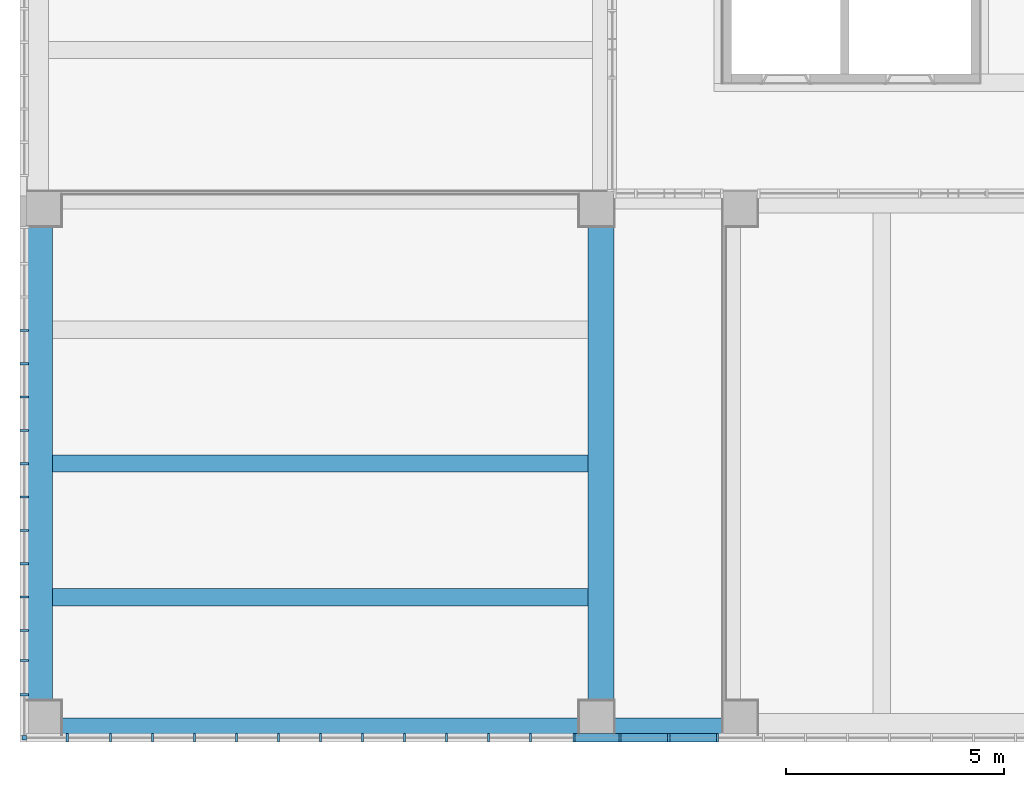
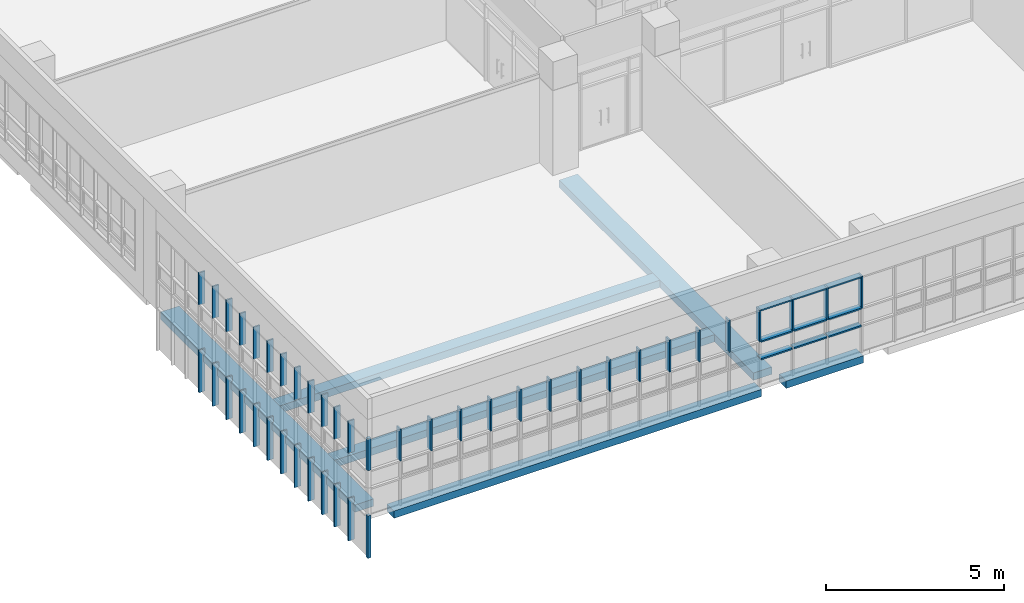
# One storey, part 2 of 81: 51 members, 6 beams, 2 elements without a shape of their own.
"""IFC2X3 building model written with IfcOpenShell, lengths in millimetres."""

import ifcopenshell
import ifcopenshell.guid

model = None  # the IFC model being written
_history = None  # IfcOwnerHistory: only IFC2X3 demands one
_inside = {}  # id of a spatial element -> (the spatial element, [elements in it])
_under = {}  # id of a project, library or spatial element -> (it, [spatial elements below it])
_declared = {}  # id of a project -> (the project, [libraries it declares])
_typed = {}  # id of a type object -> (the type object, [elements of that type])
_made_of = {}  # id of a material, layer set ... -> (it, [elements and type objects made of it])


def new_model(schema):
    """Start an empty IFC model of exactly this schema.

    Asked for "IFC4X3", IfcOpenShell would pick the latest addendum, in which some entities
    have other attributes; the version numbers below select the first issue.
    IFC2X3 requires an IfcOwnerHistory on every rooted entity: one is made here for all.
    """
    global model, _history
    if schema == "IFC4X3":
        model = ifcopenshell.file(schema_version=(4, 3, 0, 0))
    else:
        model = ifcopenshell.file(schema=schema)
    _inside.clear()
    _under.clear()
    _declared.clear()
    _typed.clear()
    _made_of.clear()
    _history = None
    if model.schema == "IFC2X3":
        org = make("IfcOrganization", Name="unknown")
        user = make(
            "IfcPersonAndOrganization",
            ThePerson=make("IfcPerson", FamilyName="unknown"),
            TheOrganization=org,
        )
        app = make(
            "IfcApplication",
            ApplicationDeveloper=org,
            Version="unknown",
            ApplicationFullName="unknown",
            ApplicationIdentifier="unknown",
        )
        _history = make(
            "IfcOwnerHistory",
            OwningUser=user,
            OwningApplication=app,
            ChangeAction="ADDED",
            CreationDate=0,
        )
    return model


def make(cls, **values):
    """One entity of the class cls with the attributes given. An attribute that is None is left unset."""
    return model.create_entity(
        cls, **{name: value for name, value in values.items() if value is not None}
    )


def entity(cls, *values):
    """Any entity or typed value of the class cls, its attributes in the order of the schema. None: left unset."""
    e = model.create_entity(cls)
    for i, value in enumerate(values):
        if value is not None:
            e[i] = value
    return e


def rooted(cls, **values):
    """An entity with a GlobalId (a new one), such as an element, a storey or a relation."""
    return make(cls, GlobalId=ifcopenshell.guid.new(), OwnerHistory=_history, **values)


def si_unit(unit_type, name, prefix=None):
    """IfcSIUnit, for example si_unit("LENGTHUNIT", "METRE", prefix="MILLI")."""
    return make("IfcSIUnit", UnitType=unit_type, Prefix=prefix, Name=name)


def converted_unit(unit_type, name, factor, base, dimensions=None, offset=None):
    """IfcConversionBasedUnit, such as the inch: factor (a typed value) times the base unit."""
    return make(
        "IfcConversionBasedUnit"
        if offset is None
        else "IfcConversionBasedUnitWithOffset",
        ConversionOffset=offset,
        Dimensions=None
        if dimensions is None
        else entity("IfcDimensionalExponents", *dimensions),
        UnitType=unit_type,
        Name=name,
        ConversionFactor=make(
            "IfcMeasureWithUnit", ValueComponent=factor, UnitComponent=base
        ),
    )


def derived_unit(unit_type, elements):
    """IfcDerivedUnit: a product of units, each with its exponent."""
    return make(
        "IfcDerivedUnit",
        Elements=[
            make("IfcDerivedUnitElement", Unit=unit, Exponent=power)
            for unit, power in elements
        ],
        UnitType=unit_type,
    )


def assignment(units):
    """IfcUnitAssignment: the units of a project."""
    return None if units is None else make("IfcUnitAssignment", Units=units)


def point(xyz):
    """IfcCartesianPoint."""
    return None if xyz is None else make("IfcCartesianPoint", Coordinates=xyz)


def direction(xyz):
    """IfcDirection."""
    return None if xyz is None else make("IfcDirection", DirectionRatios=xyz)


def frame(location, z_axis=None, x_axis=None):
    """IfcAxis2Placement3D, a coordinate frame: its origin and axes. An axis left out is left unset."""
    return make(
        "IfcAxis2Placement3D",
        Location=point(location),
        Axis=direction(z_axis),
        RefDirection=direction(x_axis),
    )


def frame_2d(location, x_axis=None):
    """IfcAxis2Placement2D, a coordinate frame in the plane: its origin and x axis."""
    return make(
        "IfcAxis2Placement2D", Location=point(location), RefDirection=direction(x_axis)
    )


def origin():
    """The frame at (0, 0, 0) with its axes left unset."""
    return frame((0.0, 0.0, 0.0))


def origin_2d_with_axis():
    """The frame at (0, 0) in the plane with the x axis (1, 0) written out."""
    return frame_2d((0.0, 0.0), x_axis=(1.0, 0.0))


def place(relative_to, where):
    """IfcLocalPlacement: puts the frame where relative to a parent placement (None: the world)."""
    return make(
        "IfcLocalPlacement", PlacementRelTo=relative_to, RelativePlacement=where
    )


def context(
    kind, dimensions, precision=None, world=None, true_north=None, identifier=None
):
    """IfcGeometricRepresentationContext, for example the 3D "Model" context."""
    return make(
        "IfcGeometricRepresentationContext",
        ContextIdentifier=identifier,
        ContextType=kind,
        CoordinateSpaceDimension=dimensions,
        Precision=precision,
        WorldCoordinateSystem=world,
        TrueNorth=true_north,
    )


def subcontext(parent, identifier, kind, view, scale=None):
    """IfcGeometricRepresentationSubContext, for example "Body" below "Model"."""
    return make(
        "IfcGeometricRepresentationSubContext",
        ContextIdentifier=identifier,
        ContextType=kind,
        ParentContext=parent,
        TargetScale=scale,
        TargetView=view,
    )


def project(units=None, contexts=None):
    """IfcProject with its units and contexts."""
    return rooted(
        "IfcProject",
        Name="project",
        RepresentationContexts=contexts,
        UnitsInContext=assignment(units),
    )


def spatial(cls, under=None, at=None, **own):
    """A site, building, storey or space (cls), placed at a placement, below another one or the project."""
    s = rooted(cls, ObjectPlacement=at, **own)
    if under is not None:
        _under.setdefault(under.id(), (under, []))[1].append(s)
    return s


def profile(cls, at=None, kind="AREA", **sizes):
    """A parametric profile (cls). Its sizes go by their IFC names, for example OverallWidth=200.0."""
    return make(cls, ProfileType=kind, Position=at, **sizes)


def rectangle(**sizes):
    """IfcRectangleProfileDef."""
    return profile("IfcRectangleProfileDef", **sizes)


def extrude(swept, where, along, depth):
    """IfcExtrudedAreaSolid: the profile swept, set in the frame where, extruded along a direction by depth."""
    return make(
        "IfcExtrudedAreaSolid",
        SweptArea=swept,
        Position=where,
        ExtrudedDirection=direction(along),
        Depth=depth,
    )


def shape(context_of_items, identifier, shape_type, items):
    """IfcShapeRepresentation: the items that make up one representation, for example the "Body"."""
    return make(
        "IfcShapeRepresentation",
        ContextOfItems=context_of_items,
        RepresentationIdentifier=identifier,
        RepresentationType=shape_type,
        Items=items,
    )


def source(mapping_origin, context_of_items, identifier, shape_type, items):
    """IfcRepresentationMap: a shape defined once, which mapped items show again and again."""
    return make(
        "IfcRepresentationMap",
        MappingOrigin=mapping_origin,
        MappedRepresentation=shape(context_of_items, identifier, shape_type, items),
    )


def transform(
    local_origin,
    x_axis=None,
    y_axis=None,
    z_axis=None,
    scale=None,
    scale2=None,
    scale3=None,
    uniform=True,
):
    """IfcCartesianTransformationOperator3D, or its non-uniform kind. x_axis, y_axis, z_axis: its Axis1, 2, 3."""
    if uniform:
        return make(
            "IfcCartesianTransformationOperator3D",
            Axis1=direction(x_axis),
            Axis2=direction(y_axis),
            LocalOrigin=point(local_origin),
            Scale=scale,
            Axis3=direction(z_axis),
        )
    return make(
        "IfcCartesianTransformationOperator3DnonUniform",
        Axis1=direction(x_axis),
        Axis2=direction(y_axis),
        LocalOrigin=point(local_origin),
        Scale=scale,
        Axis3=direction(z_axis),
        Scale2=scale2,
        Scale3=scale3,
    )


def mapped(mapping_source, mapping_target):
    """IfcMappedItem: shows the shape of a source again, moved by a transform."""
    return make(
        "IfcMappedItem", MappingSource=mapping_source, MappingTarget=mapping_target
    )


def material(Name=None, Category=None):
    """IfcMaterial."""
    return make("IfcMaterial", Name=Name, Category=Category)


def made_of(thing, what):
    """Note that an element or type object is made of a material, layer set ...; save() writes the relation."""
    if what is not None:
        _made_of.setdefault(what.id(), (what, []))[1].append(thing)
    return thing


def type_object(cls, material=None, **own):
    """A type object (cls), such as IfcWallType, which elements share."""
    return made_of(rooted(cls, **own), material)


def type_shapes(of_type, sources):
    """Give a type object the sources (RepresentationMaps) that its elements show as mapped items."""
    of_type.RepresentationMaps = sources


def element(
    cls,
    number,
    at=None,
    inside=None,
    cuts=None,
    type_object=None,
    material=None,
    context=None,
    identifier="Body",
    shape_type=None,
    held_by="IfcProductDefinitionShape",
    body=None,
    shapes=None,
    **own,
):
    """One element of the class cls, such as IfcWall. Its Tag is "e" and its number.

    at: its placement. inside: the storey or other place that contains it. cuts: it is an
    opening in that element (IfcRelVoidsElement). A single representation is given by context,
    identifier, shape_type and body (its items); several are given by shapes. held_by: the class
    of the entity that holds the representations. save() writes the other relations.
    """
    e = rooted(cls, Tag="e%d" % number, ObjectPlacement=at, **own)
    if body is not None:
        shapes = [shape(context, identifier, shape_type, body)]
    if shapes is not None:
        e.Representation = make(held_by, Representations=shapes)
    if inside is not None:
        _inside.setdefault(inside.id(), (inside, []))[1].append(e)
    if cuts is not None:
        rooted(
            "IfcRelVoidsElement", RelatingBuildingElement=cuts, RelatedOpeningElement=e
        )
    if type_object is not None:
        _typed.setdefault(type_object.id(), (type_object, []))[1].append(e)
    return made_of(e, material)


def aggregate(whole, parts):
    """IfcRelAggregates: a whole, such as a stair, and the parts it consists of."""
    return rooted("IfcRelAggregates", RelatingObject=whole, RelatedObjects=parts)


def save(model, path):
    """Write the relations noted so far, then the file.

    IfcRelAggregates (storeys below a building ...), IfcRelContainedInSpatialStructure (elements
    in a storey), IfcRelDefinesByType, IfcRelAssociatesMaterial and IfcRelDeclares: one each for
    every whole, place, type object, material and project.
    """
    for whole, parts in _under.values():
        aggregate(whole, parts)
    for where, things in _inside.values():
        rooted(
            "IfcRelContainedInSpatialStructure",
            RelatedElements=things,
            RelatingStructure=where,
        )
    for kind, things in _typed.values():
        rooted("IfcRelDefinesByType", RelatedObjects=things, RelatingType=kind)
    for what, things in _made_of.values():
        rooted("IfcRelAssociatesMaterial", RelatedObjects=things, RelatingMaterial=what)
    for by, libraries in _declared.values():
        rooted("IfcRelDeclares", RelatingContext=by, RelatedDefinitions=libraries)
    model.write(path)


model = new_model("IFC2X3")

# Units and contexts
model_context = context("Model", 3, precision=0.01, world=origin(), true_north=direction((6.123031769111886e-17, 1.0)))
body_context = subcontext(model_context, "Body", "Model", "MODEL_VIEW")
ifc_project = project(units=[si_unit("LENGTHUNIT", "METRE", prefix="MILLI"), si_unit("AREAUNIT", "SQUARE_METRE"), si_unit("VOLUMEUNIT", "CUBIC_METRE"), converted_unit("PLANEANGLEUNIT", "DEGREE", entity("IfcRatioMeasure", 0.017453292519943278), si_unit("PLANEANGLEUNIT", "RADIAN"), dimensions=[0, 0, 0, 0, 0, 0, 0]), si_unit("MASSUNIT", "GRAM", prefix="KILO"), derived_unit("MASSDENSITYUNIT", [(si_unit("MASSUNIT", "GRAM", prefix="KILO"), 1), (si_unit("LENGTHUNIT", "METRE"), -3)]), derived_unit("MOMENTOFINERTIAUNIT", [(si_unit("LENGTHUNIT", "METRE"), 4)]), si_unit("TIMEUNIT", "SECOND"), si_unit("FREQUENCYUNIT", "HERTZ"), si_unit("THERMODYNAMICTEMPERATUREUNIT", "DEGREE_CELSIUS"), derived_unit("THERMALTRANSMITTANCEUNIT", [(si_unit("MASSUNIT", "GRAM", prefix="KILO"), 1), (si_unit("THERMODYNAMICTEMPERATUREUNIT", "KELVIN"), -1), (si_unit("TIMEUNIT", "SECOND"), -3)]), derived_unit("VOLUMETRICFLOWRATEUNIT", [(si_unit("LENGTHUNIT", "METRE"), 3), (si_unit("TIMEUNIT", "SECOND"), -1)]), derived_unit("MASSFLOWRATEUNIT", [(si_unit("MASSUNIT", "GRAM", prefix="KILO"), 1), (si_unit("TIMEUNIT", "SECOND"), -1)]), derived_unit("ROTATIONALFREQUENCYUNIT", [(si_unit("TIMEUNIT", "SECOND"), -1)]), si_unit("ELECTRICCURRENTUNIT", "AMPERE"), si_unit("ELECTRICVOLTAGEUNIT", "VOLT"), si_unit("POWERUNIT", "WATT"), si_unit("FORCEUNIT", "NEWTON", prefix="KILO"), si_unit("ILLUMINANCEUNIT", "LUX"), si_unit("LUMINOUSFLUXUNIT", "LUMEN"), si_unit("LUMINOUSINTENSITYUNIT", "CANDELA"), derived_unit("USERDEFINED", [(si_unit("MASSUNIT", "GRAM", prefix="KILO"), -1), (si_unit("LENGTHUNIT", "METRE"), -2), (si_unit("TIMEUNIT", "SECOND"), 3), (si_unit("LUMINOUSFLUXUNIT", "LUMEN"), 1)]), derived_unit("SOUNDPOWERUNIT", [(si_unit("MASSUNIT", "GRAM", prefix="KILO"), 1), (si_unit("LENGTHUNIT", "METRE"), 2), (si_unit("TIMEUNIT", "SECOND"), -3)]), derived_unit("SOUNDPRESSUREUNIT", [(si_unit("MASSUNIT", "GRAM", prefix="KILO"), 1), (si_unit("LENGTHUNIT", "METRE"), -1), (si_unit("TIMEUNIT", "SECOND"), -2)]), derived_unit("LINEARVELOCITYUNIT", [(si_unit("LENGTHUNIT", "METRE"), 1), (si_unit("TIMEUNIT", "SECOND"), -1)]), si_unit("PRESSUREUNIT", "PASCAL"), derived_unit("USERDEFINED", [(si_unit("LENGTHUNIT", "METRE"), -2), (si_unit("MASSUNIT", "GRAM", prefix="KILO"), 1), (si_unit("TIMEUNIT", "SECOND"), -2)]), derived_unit("LINEARFORCEUNIT", [(si_unit("MASSUNIT", "GRAM", prefix="KILO"), 1), (si_unit("LENGTHUNIT", "METRE"), 1), (si_unit("TIMEUNIT", "SECOND"), -2), (si_unit("LENGTHUNIT", "METRE"), -1)]), derived_unit("PLANARFORCEUNIT", [(si_unit("MASSUNIT", "GRAM", prefix="KILO"), 1), (si_unit("LENGTHUNIT", "METRE"), 1), (si_unit("TIMEUNIT", "SECOND"), -2), (si_unit("LENGTHUNIT", "METRE"), -2)])], contexts=[model_context])

# Site, building, storey
site_placement = place(None, frame((-14167.972527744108, -657.2125860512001, 0.0)))
site = spatial("IfcSite", under=ifc_project, at=site_placement, Name="Default", CompositionType="ELEMENT")
building_placement = place(site_placement, origin())
building = spatial("IfcBuilding", under=site, at=building_placement, Name="Sample Building", CompositionType="ELEMENT")
storey_placement = place(building_placement, frame((0.0, 0.0, 13400.0)))
storey = spatial("IfcBuildingStorey", under=building, at=storey_placement, Name="지상 4층", CompositionType="ELEMENT", Elevation=13400.00000000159)

# Curtain wall, members
curtain_wall_type = type_object("IfcCurtainWallType", Name="커튼월:CW112-스테인리스 스틸 커튼월", PredefinedType="NOTDEFINED")
curtain_wall_1_placement = place(storey_placement, frame((0.0, 0.0, -13400.0)))
curtain_wall_1 = element("IfcCurtainWall", 1, at=curtain_wall_1_placement, inside=storey, type_object=curtain_wall_type, Name="커튼월:CW112-스테인리스 스틸 커튼월", ObjectType="커튼월:CW112-스테인리스 스틸 커튼월")
ifc_material_1 = material(Name="<Unnamed>")
member_type_1 = type_object("IfcMemberType", Name="직사각형 멀리언:CW200-직사각형 멀리언 100 x 100mm", PredefinedType="MULLION", material=ifc_material_1)
shared_shape_1 = source(origin(), body_context, "Body", "SweptSolid", [
    extrude(rectangle(XDim=100.00000000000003, YDim=100.0, at=origin_2d_with_axis()), frame((-50.0, 0.0, -1450.0), z_axis=(0.0, 0.0, 1.0), x_axis=(0.0, -1.0, 0.0)), (0.0, 0.0, 1.0), 1449.9999999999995),
])
type_shapes(member_type_1, [shared_shape_1])
member_1_placement = place(curtain_wall_1_placement, frame((14017.955105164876, 457.4731922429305, 12000.0), z_axis=(0.0, 0.0, -1.0), x_axis=(0.0, -1.0, 0.0)))
member_1 = element("IfcMember", 2, at=member_1_placement, type_object=member_type_1, material=ifc_material_1, Name="직사각형 멀리언:CW200-직사각형 멀리언 100 x 100mm", ObjectType="직사각형 멀리언:CW200-직사각형 멀리언 100 x 100mm", context=body_context, shape_type="MappedRepresentation", body=[
    mapped(shared_shape_1, transform((0.0, 0.0, 0.0), scale=1.0)),
])
member_type_2 = type_object("IfcMemberType", Name="직사각형 멀리언:CW200-직사각형 멀리언 100 x 100mm", PredefinedType="MULLION", material=ifc_material_1)
shared_shape_2 = source(origin(), body_context, "Body", "SweptSolid", [
    extrude(rectangle(XDim=99.99999999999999, YDim=100.0, at=origin_2d_with_axis()), frame((-50.0, 0.0, -1100.0), z_axis=(0.0, 0.0, 1.0), x_axis=(0.0, -1.0, 0.0)), (0.0, 0.0, 1.0), 1099.9999999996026),
])
type_shapes(member_type_2, [shared_shape_2])
member_2_placement = place(curtain_wall_1_placement, frame((14017.955105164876, 457.47319224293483, 15000.0), z_axis=(0.0, 0.0, -1.0), x_axis=(0.0, -1.0, 0.0)))
member_2 = element("IfcMember", 3, at=member_2_placement, type_object=member_type_2, material=ifc_material_1, Name="직사각형 멀리언:CW200-직사각형 멀리언 100 x 100mm", ObjectType="직사각형 멀리언:CW200-직사각형 멀리언 100 x 100mm", context=body_context, shape_type="MappedRepresentation", body=[
    mapped(shared_shape_2, transform((0.0, 0.0, 0.0), scale=1.0)),
])
member_type_3 = type_object("IfcMemberType", Name="직사각형 멀리언:CW200-직사각형 멀리언 50x200mm", PredefinedType="MULLION", material=ifc_material_1)
shared_shape_3 = source(origin(), body_context, "Body", "SweptSolid", [
    extrude(rectangle(XDim=200.0, YDim=50.0, at=origin_2d_with_axis()), frame((0.0, 0.0, -1450.0), z_axis=(0.0, 0.0, 1.0), x_axis=(0.0, -1.0, 0.0)), (0.0, 0.0, 1.0), 1449.9999999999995),
])
type_shapes(member_type_3, [shared_shape_3])
member_3_placement = place(curtain_wall_1_placement, frame((14017.955105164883, 3735.8177070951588, 12000.0), z_axis=(0.0, 0.0, -1.0), x_axis=(0.0, -1.0, 0.0)))
member_3 = element("IfcMember", 4, at=member_3_placement, type_object=member_type_3, material=ifc_material_1, Name="직사각형 멀리언:CW200-직사각형 멀리언 50x200mm", ObjectType="직사각형 멀리언:CW200-직사각형 멀리언 50x200mm", context=body_context, shape_type="MappedRepresentation", body=[
    mapped(shared_shape_3, transform((0.0, 0.0, 0.0), scale=1.0)),
])
member_4_placement = place(curtain_wall_1_placement, frame((14017.955105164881, 2969.8177070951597, 12000.0), z_axis=(0.0, 0.0, -1.0), x_axis=(0.0, -1.0, 0.0)))
member_4 = element("IfcMember", 5, at=member_4_placement, type_object=member_type_3, material=ifc_material_1, Name="직사각형 멀리언:CW200-직사각형 멀리언 50x200mm", ObjectType="직사각형 멀리언:CW200-직사각형 멀리언 50x200mm", context=body_context, shape_type="MappedRepresentation", body=[
    mapped(shared_shape_3, transform((0.0, 0.0, 0.0), scale=1.0)),
])
member_5_placement = place(curtain_wall_1_placement, frame((14017.955105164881, 2277.817707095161, 12000.0), z_axis=(0.0, 0.0, -1.0), x_axis=(0.0, -1.0, 0.0)))
member_5 = element("IfcMember", 6, at=member_5_placement, type_object=member_type_3, material=ifc_material_1, Name="직사각형 멀리언:CW200-직사각형 멀리언 50x200mm", ObjectType="직사각형 멀리언:CW200-직사각형 멀리언 50x200mm", context=body_context, shape_type="MappedRepresentation", body=[
    mapped(shared_shape_3, transform((0.0, 0.0, 0.0), scale=1.0)),
])
member_6_placement = place(curtain_wall_1_placement, frame((14017.955105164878, 1494.8177070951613, 12000.0), z_axis=(0.0, 0.0, -1.0), x_axis=(0.0, -1.0, 0.0)))
member_6 = element("IfcMember", 7, at=member_6_placement, type_object=member_type_3, material=ifc_material_1, Name="직사각형 멀리언:CW200-직사각형 멀리언 50x200mm", ObjectType="직사각형 멀리언:CW200-직사각형 멀리언 50x200mm", context=body_context, shape_type="MappedRepresentation", body=[
    mapped(shared_shape_3, transform((0.0, 0.0, 0.0), scale=1.0)),
])
member_7_placement = place(curtain_wall_1_placement, frame((14017.955105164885, 4501.817707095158, 12000.0), z_axis=(0.0, 0.0, -1.0), x_axis=(0.0, -1.0, 0.0)))
member_7 = element("IfcMember", 8, at=member_7_placement, type_object=member_type_3, material=ifc_material_1, Name="직사각형 멀리언:CW200-직사각형 멀리언 50x200mm", ObjectType="직사각형 멀리언:CW200-직사각형 멀리언 50x200mm", context=body_context, shape_type="MappedRepresentation", body=[
    mapped(shared_shape_3, transform((0.0, 0.0, 0.0), scale=1.0)),
])
member_8_placement = place(curtain_wall_1_placement, frame((14017.955105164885, 5267.817707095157, 12000.0), z_axis=(0.0, 0.0, -1.0), x_axis=(0.0, -1.0, 0.0)))
member_8 = element("IfcMember", 9, at=member_8_placement, type_object=member_type_3, material=ifc_material_1, Name="직사각형 멀리언:CW200-직사각형 멀리언 50x200mm", ObjectType="직사각형 멀리언:CW200-직사각형 멀리언 50x200mm", context=body_context, shape_type="MappedRepresentation", body=[
    mapped(shared_shape_3, transform((0.0, 0.0, 0.0), scale=1.0)),
])
member_9_placement = place(curtain_wall_1_placement, frame((14017.955105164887, 6033.817707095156, 12000.0), z_axis=(0.0, 0.0, -1.0), x_axis=(0.0, -1.0, 0.0)))
member_9 = element("IfcMember", 10, at=member_9_placement, type_object=member_type_3, material=ifc_material_1, Name="직사각형 멀리언:CW200-직사각형 멀리언 50x200mm", ObjectType="직사각형 멀리언:CW200-직사각형 멀리언 50x200mm", context=body_context, shape_type="MappedRepresentation", body=[
    mapped(shared_shape_3, transform((0.0, 0.0, 0.0), scale=1.0)),
])
member_10_placement = place(curtain_wall_1_placement, frame((14017.955105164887, 6799.817707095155, 12000.0), z_axis=(0.0, 0.0, -1.0), x_axis=(0.0, -1.0, 0.0)))
member_10 = element("IfcMember", 11, at=member_10_placement, type_object=member_type_3, material=ifc_material_1, Name="직사각형 멀리언:CW200-직사각형 멀리언 50x200mm", ObjectType="직사각형 멀리언:CW200-직사각형 멀리언 50x200mm", context=body_context, shape_type="MappedRepresentation", body=[
    mapped(shared_shape_3, transform((0.0, 0.0, 0.0), scale=1.0)),
])
member_11_placement = place(curtain_wall_1_placement, frame((14017.955105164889, 7565.817707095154, 12000.0), z_axis=(0.0, 0.0, -1.0), x_axis=(0.0, -1.0, 0.0)))
member_11 = element("IfcMember", 12, at=member_11_placement, type_object=member_type_3, material=ifc_material_1, Name="직사각형 멀리언:CW200-직사각형 멀리언 50x200mm", ObjectType="직사각형 멀리언:CW200-직사각형 멀리언 50x200mm", context=body_context, shape_type="MappedRepresentation", body=[
    mapped(shared_shape_3, transform((0.0, 0.0, 0.0), scale=1.0)),
])
member_12_placement = place(curtain_wall_1_placement, frame((14017.955105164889, 8331.817707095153, 12000.0), z_axis=(0.0, 0.0, -1.0), x_axis=(0.0, -1.0, 0.0)))
member_12 = element("IfcMember", 13, at=member_12_placement, type_object=member_type_3, material=ifc_material_1, Name="직사각형 멀리언:CW200-직사각형 멀리언 50x200mm", ObjectType="직사각형 멀리언:CW200-직사각형 멀리언 50x200mm", context=body_context, shape_type="MappedRepresentation", body=[
    mapped(shared_shape_3, transform((0.0, 0.0, 0.0), scale=1.0)),
])
member_13_placement = place(curtain_wall_1_placement, frame((14017.95510516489, 9097.817707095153, 12000.0), z_axis=(0.0, 0.0, -1.0), x_axis=(0.0, -1.0, 0.0)))
member_13 = element("IfcMember", 14, at=member_13_placement, type_object=member_type_3, material=ifc_material_1, Name="직사각형 멀리언:CW200-직사각형 멀리언 50x200mm", ObjectType="직사각형 멀리언:CW200-직사각형 멀리언 50x200mm", context=body_context, shape_type="MappedRepresentation", body=[
    mapped(shared_shape_3, transform((0.0, 0.0, 0.0), scale=1.0)),
])
member_14_placement = place(curtain_wall_1_placement, frame((14017.955105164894, 9863.817707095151, 12000.0), z_axis=(0.0, 0.0, -1.0), x_axis=(0.0, -1.0, 0.0)))
member_14 = element("IfcMember", 15, at=member_14_placement, type_object=member_type_3, material=ifc_material_1, Name="직사각형 멀리언:CW200-직사각형 멀리언 50x200mm", ObjectType="직사각형 멀리언:CW200-직사각형 멀리언 50x200mm", context=body_context, shape_type="MappedRepresentation", body=[
    mapped(shared_shape_3, transform((0.0, 0.0, 0.0), scale=1.0)),
])
member_type_4 = type_object("IfcMemberType", Name="직사각형 멀리언:CW200-직사각형 멀리언 50x200mm", PredefinedType="MULLION", material=ifc_material_1)
shared_shape_4 = source(origin(), body_context, "Body", "SweptSolid", [
    extrude(rectangle(XDim=200.0, YDim=50.0, at=origin_2d_with_axis()), frame((0.0, 0.0, -1100.0), z_axis=(0.0, 0.0, 1.0), x_axis=(0.0, -1.0, 0.0)), (0.0, 0.0, 1.0), 1100.0000000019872),
])
type_shapes(member_type_4, [shared_shape_4])
member_15_placement = place(curtain_wall_1_placement, frame((14017.955105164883, 3735.817707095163, 15000.0), z_axis=(0.0, 0.0, -1.0), x_axis=(0.0, -1.0, 0.0)))
member_15 = element("IfcMember", 16, at=member_15_placement, type_object=member_type_4, material=ifc_material_1, Name="직사각형 멀리언:CW200-직사각형 멀리언 50x200mm", ObjectType="직사각형 멀리언:CW200-직사각형 멀리언 50x200mm", context=body_context, shape_type="MappedRepresentation", body=[
    mapped(shared_shape_4, transform((0.0, 0.0, 0.0), scale=1.0)),
])
member_16_placement = place(curtain_wall_1_placement, frame((14017.955105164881, 2969.8177070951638, 15000.0), z_axis=(0.0, 0.0, -1.0), x_axis=(0.0, -1.0, 0.0)))
member_16 = element("IfcMember", 17, at=member_16_placement, type_object=member_type_4, material=ifc_material_1, Name="직사각형 멀리언:CW200-직사각형 멀리언 50x200mm", ObjectType="직사각형 멀리언:CW200-직사각형 멀리언 50x200mm", context=body_context, shape_type="MappedRepresentation", body=[
    mapped(shared_shape_4, transform((0.0, 0.0, 0.0), scale=1.0)),
])
member_17_placement = place(curtain_wall_1_placement, frame((14017.955105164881, 2277.817707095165, 15000.0), z_axis=(0.0, 0.0, -1.0), x_axis=(0.0, -1.0, 0.0)))
member_17 = element("IfcMember", 18, at=member_17_placement, type_object=member_type_4, material=ifc_material_1, Name="직사각형 멀리언:CW200-직사각형 멀리언 50x200mm", ObjectType="직사각형 멀리언:CW200-직사각형 멀리언 50x200mm", context=body_context, shape_type="MappedRepresentation", body=[
    mapped(shared_shape_4, transform((0.0, 0.0, 0.0), scale=1.0)),
])
member_18_placement = place(curtain_wall_1_placement, frame((14017.955105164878, 1494.8177070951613, 15000.0), z_axis=(0.0, 0.0, -1.0), x_axis=(0.0, -1.0, 0.0)))
member_18 = element("IfcMember", 19, at=member_18_placement, type_object=member_type_4, material=ifc_material_1, Name="직사각형 멀리언:CW200-직사각형 멀리언 50x200mm", ObjectType="직사각형 멀리언:CW200-직사각형 멀리언 50x200mm", context=body_context, shape_type="MappedRepresentation", body=[
    mapped(shared_shape_4, transform((0.0, 0.0, 0.0), scale=1.0)),
])
member_19_placement = place(curtain_wall_1_placement, frame((14017.955105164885, 4501.817707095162, 15000.0), z_axis=(0.0, 0.0, -1.0), x_axis=(0.0, -1.0, 0.0)))
member_19 = element("IfcMember", 20, at=member_19_placement, type_object=member_type_4, material=ifc_material_1, Name="직사각형 멀리언:CW200-직사각형 멀리언 50x200mm", ObjectType="직사각형 멀리언:CW200-직사각형 멀리언 50x200mm", context=body_context, shape_type="MappedRepresentation", body=[
    mapped(shared_shape_4, transform((0.0, 0.0, 0.0), scale=1.0)),
])
member_20_placement = place(curtain_wall_1_placement, frame((14017.955105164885, 5267.8177070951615, 15000.0), z_axis=(0.0, 0.0, -1.0), x_axis=(0.0, -1.0, 0.0)))
member_20 = element("IfcMember", 21, at=member_20_placement, type_object=member_type_4, material=ifc_material_1, Name="직사각형 멀리언:CW200-직사각형 멀리언 50x200mm", ObjectType="직사각형 멀리언:CW200-직사각형 멀리언 50x200mm", context=body_context, shape_type="MappedRepresentation", body=[
    mapped(shared_shape_4, transform((0.0, 0.0, 0.0), scale=1.0)),
])
member_21_placement = place(curtain_wall_1_placement, frame((14017.955105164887, 6033.817707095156, 15000.0), z_axis=(0.0, 0.0, -1.0), x_axis=(0.0, -1.0, 0.0)))
member_21 = element("IfcMember", 22, at=member_21_placement, type_object=member_type_4, material=ifc_material_1, Name="직사각형 멀리언:CW200-직사각형 멀리언 50x200mm", ObjectType="직사각형 멀리언:CW200-직사각형 멀리언 50x200mm", context=body_context, shape_type="MappedRepresentation", body=[
    mapped(shared_shape_4, transform((0.0, 0.0, 0.0), scale=1.0)),
])
member_22_placement = place(curtain_wall_1_placement, frame((14017.955105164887, 6799.817707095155, 15000.0), z_axis=(0.0, 0.0, -1.0), x_axis=(0.0, -1.0, 0.0)))
member_22 = element("IfcMember", 23, at=member_22_placement, type_object=member_type_4, material=ifc_material_1, Name="직사각형 멀리언:CW200-직사각형 멀리언 50x200mm", ObjectType="직사각형 멀리언:CW200-직사각형 멀리언 50x200mm", context=body_context, shape_type="MappedRepresentation", body=[
    mapped(shared_shape_4, transform((0.0, 0.0, 0.0), scale=1.0)),
])
member_23_placement = place(curtain_wall_1_placement, frame((14017.955105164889, 7565.817707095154, 15000.0), z_axis=(0.0, 0.0, -1.0), x_axis=(0.0, -1.0, 0.0)))
member_23 = element("IfcMember", 24, at=member_23_placement, type_object=member_type_4, material=ifc_material_1, Name="직사각형 멀리언:CW200-직사각형 멀리언 50x200mm", ObjectType="직사각형 멀리언:CW200-직사각형 멀리언 50x200mm", context=body_context, shape_type="MappedRepresentation", body=[
    mapped(shared_shape_4, transform((0.0, 0.0, 0.0), scale=1.0)),
])
member_24_placement = place(curtain_wall_1_placement, frame((14017.955105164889, 8331.817707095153, 15000.0), z_axis=(0.0, 0.0, -1.0), x_axis=(0.0, -1.0, 0.0)))
member_24 = element("IfcMember", 25, at=member_24_placement, type_object=member_type_4, material=ifc_material_1, Name="직사각형 멀리언:CW200-직사각형 멀리언 50x200mm", ObjectType="직사각형 멀리언:CW200-직사각형 멀리언 50x200mm", context=body_context, shape_type="MappedRepresentation", body=[
    mapped(shared_shape_4, transform((0.0, 0.0, 0.0), scale=1.0)),
])
member_25_placement = place(curtain_wall_1_placement, frame((14017.95510516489, 9097.817707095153, 15000.0), z_axis=(0.0, 0.0, -1.0), x_axis=(0.0, -1.0, 0.0)))
member_25 = element("IfcMember", 26, at=member_25_placement, type_object=member_type_4, material=ifc_material_1, Name="직사각형 멀리언:CW200-직사각형 멀리언 50x200mm", ObjectType="직사각형 멀리언:CW200-직사각형 멀리언 50x200mm", context=body_context, shape_type="MappedRepresentation", body=[
    mapped(shared_shape_4, transform((0.0, 0.0, 0.0), scale=1.0)),
])
member_26_placement = place(curtain_wall_1_placement, frame((14017.955105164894, 9863.817707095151, 15000.0), z_axis=(0.0, 0.0, -1.0), x_axis=(0.0, -1.0, 0.0)))
member_26 = element("IfcMember", 27, at=member_26_placement, type_object=member_type_4, material=ifc_material_1, Name="직사각형 멀리언:CW200-직사각형 멀리언 50x200mm", ObjectType="직사각형 멀리언:CW200-직사각형 멀리언 50x200mm", context=body_context, shape_type="MappedRepresentation", body=[
    mapped(shared_shape_4, transform((0.0, 0.0, 0.0), scale=1.0)),
])
aggregate(curtain_wall_1, [member_1, member_2, member_3, member_15, member_4, member_16, member_5, member_17, member_6, member_18, member_7, member_19, member_8, member_20, member_9, member_21, member_10, member_22, member_11, member_23, member_12, member_24, member_13, member_25, member_14, member_26])

curtain_wall_2_placement = place(storey_placement, frame((0.0, 0.0, -13400.0)))
curtain_wall_2 = element("IfcCurtainWall", 28, at=curtain_wall_2_placement, inside=storey, type_object=curtain_wall_type, Name="커튼월:CW112-스테인리스 스틸 커튼월", ObjectType="커튼월:CW112-스테인리스 스틸 커튼월")
member_27_placement = place(curtain_wall_2_placement, frame((15005.156070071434, 507.21229514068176, 15000.0), z_axis=(0.0, 0.0, -1.0), x_axis=(1.0, 0.0, 0.0)))
member_27 = element("IfcMember", 29, at=member_27_placement, type_object=member_type_4, material=ifc_material_1, Name="직사각형 멀리언:CW200-직사각형 멀리언 50x200mm", ObjectType="직사각형 멀리언:CW200-직사각형 멀리언 50x200mm", context=body_context, shape_type="MappedRepresentation", body=[
    mapped(shared_shape_4, transform((0.0, 0.0, 0.0), scale=1.0)),
])
member_28_placement = place(curtain_wall_2_placement, frame((16000.156070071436, 507.2122951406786, 15000.0), z_axis=(0.0, 0.0, -1.0), x_axis=(1.0, 0.0, 0.0)))
member_28 = element("IfcMember", 30, at=member_28_placement, type_object=member_type_4, material=ifc_material_1, Name="직사각형 멀리언:CW200-직사각형 멀리언 50x200mm", ObjectType="직사각형 멀리언:CW200-직사각형 멀리언 50x200mm", context=body_context, shape_type="MappedRepresentation", body=[
    mapped(shared_shape_4, transform((0.0, 0.0, 0.0), scale=1.0)),
])
member_29_placement = place(curtain_wall_2_placement, frame((16965.156070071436, 507.21229514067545, 15000.0), z_axis=(0.0, 0.0, -1.0), x_axis=(1.0, 0.0, 0.0)))
member_29 = element("IfcMember", 31, at=member_29_placement, type_object=member_type_4, material=ifc_material_1, Name="직사각형 멀리언:CW200-직사각형 멀리언 50x200mm", ObjectType="직사각형 멀리언:CW200-직사각형 멀리언 50x200mm", context=body_context, shape_type="MappedRepresentation", body=[
    mapped(shared_shape_4, transform((0.0, 0.0, 0.0), scale=1.0)),
])
member_30_placement = place(curtain_wall_2_placement, frame((17930.156070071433, 507.2122951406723, 15000.0), z_axis=(0.0, 0.0, -1.0), x_axis=(1.0, 0.0, 0.0)))
member_30 = element("IfcMember", 32, at=member_30_placement, type_object=member_type_4, material=ifc_material_1, Name="직사각형 멀리언:CW200-직사각형 멀리언 50x200mm", ObjectType="직사각형 멀리언:CW200-직사각형 멀리언 50x200mm", context=body_context, shape_type="MappedRepresentation", body=[
    mapped(shared_shape_4, transform((0.0, 0.0, 0.0), scale=1.0)),
])
member_31_placement = place(curtain_wall_2_placement, frame((18895.156070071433, 507.2122951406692, 15000.0), z_axis=(0.0, 0.0, -1.0), x_axis=(1.0, 0.0, 0.0)))
member_31 = element("IfcMember", 33, at=member_31_placement, type_object=member_type_4, material=ifc_material_1, Name="직사각형 멀리언:CW200-직사각형 멀리언 50x200mm", ObjectType="직사각형 멀리언:CW200-직사각형 멀리언 50x200mm", context=body_context, shape_type="MappedRepresentation", body=[
    mapped(shared_shape_4, transform((0.0, 0.0, 0.0), scale=1.0)),
])
member_32_placement = place(curtain_wall_2_placement, frame((19860.156070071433, 507.212295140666, 15000.0), z_axis=(0.0, 0.0, -1.0), x_axis=(1.0, 0.0, 0.0)))
member_32 = element("IfcMember", 34, at=member_32_placement, type_object=member_type_4, material=ifc_material_1, Name="직사각형 멀리언:CW200-직사각형 멀리언 50x200mm", ObjectType="직사각형 멀리언:CW200-직사각형 멀리언 50x200mm", context=body_context, shape_type="MappedRepresentation", body=[
    mapped(shared_shape_4, transform((0.0, 0.0, 0.0), scale=1.0)),
])
member_33_placement = place(curtain_wall_2_placement, frame((20825.156070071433, 507.21229514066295, 15000.0), z_axis=(0.0, 0.0, -1.0), x_axis=(1.0, 0.0, 0.0)))
member_33 = element("IfcMember", 35, at=member_33_placement, type_object=member_type_4, material=ifc_material_1, Name="직사각형 멀리언:CW200-직사각형 멀리언 50x200mm", ObjectType="직사각형 멀리언:CW200-직사각형 멀리언 50x200mm", context=body_context, shape_type="MappedRepresentation", body=[
    mapped(shared_shape_4, transform((0.0, 0.0, 0.0), scale=1.0)),
])
member_34_placement = place(curtain_wall_2_placement, frame((21790.156070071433, 507.2122951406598, 15000.0), z_axis=(0.0, 0.0, -1.0), x_axis=(1.0, 0.0, 0.0)))
member_34 = element("IfcMember", 36, at=member_34_placement, type_object=member_type_4, material=ifc_material_1, Name="직사각형 멀리언:CW200-직사각형 멀리언 50x200mm", ObjectType="직사각형 멀리언:CW200-직사각형 멀리언 50x200mm", context=body_context, shape_type="MappedRepresentation", body=[
    mapped(shared_shape_4, transform((0.0, 0.0, 0.0), scale=1.0)),
])
member_35_placement = place(curtain_wall_2_placement, frame((22755.156070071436, 507.2122951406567, 15000.0), z_axis=(0.0, 0.0, -1.0), x_axis=(1.0, 0.0, 0.0)))
member_35 = element("IfcMember", 37, at=member_35_placement, type_object=member_type_4, material=ifc_material_1, Name="직사각형 멀리언:CW200-직사각형 멀리언 50x200mm", ObjectType="직사각형 멀리언:CW200-직사각형 멀리언 50x200mm", context=body_context, shape_type="MappedRepresentation", body=[
    mapped(shared_shape_4, transform((0.0, 0.0, 0.0), scale=1.0)),
])
member_36_placement = place(curtain_wall_2_placement, frame((23720.156070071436, 507.21229514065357, 15000.0), z_axis=(0.0, 0.0, -1.0), x_axis=(1.0, 0.0, 0.0)))
member_36 = element("IfcMember", 38, at=member_36_placement, type_object=member_type_4, material=ifc_material_1, Name="직사각형 멀리언:CW200-직사각형 멀리언 50x200mm", ObjectType="직사각형 멀리언:CW200-직사각형 멀리언 50x200mm", context=body_context, shape_type="MappedRepresentation", body=[
    mapped(shared_shape_4, transform((0.0, 0.0, 0.0), scale=1.0)),
])
member_37_placement = place(curtain_wall_2_placement, frame((24685.15607007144, 507.2122951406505, 15000.0), z_axis=(0.0, 0.0, -1.0), x_axis=(1.0, 0.0, 0.0)))
member_37 = element("IfcMember", 39, at=member_37_placement, type_object=member_type_4, material=ifc_material_1, Name="직사각형 멀리언:CW200-직사각형 멀리언 50x200mm", ObjectType="직사각형 멀리언:CW200-직사각형 멀리언 50x200mm", context=body_context, shape_type="MappedRepresentation", body=[
    mapped(shared_shape_4, transform((0.0, 0.0, 0.0), scale=1.0)),
])
member_38_placement = place(curtain_wall_2_placement, frame((25650.15607007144, 507.21229514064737, 15000.0), z_axis=(0.0, 0.0, -1.0), x_axis=(1.0, 0.0, 0.0)))
member_38 = element("IfcMember", 40, at=member_38_placement, type_object=member_type_4, material=ifc_material_1, Name="직사각형 멀리언:CW200-직사각형 멀리언 50x200mm", ObjectType="직사각형 멀리언:CW200-직사각형 멀리언 50x200mm", context=body_context, shape_type="MappedRepresentation", body=[
    mapped(shared_shape_4, transform((0.0, 0.0, 0.0), scale=1.0)),
])
member_39_placement = place(curtain_wall_2_placement, frame((26645.15607007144, 507.2122951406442, 15000.0), z_axis=(0.0, 0.0, -1.0), x_axis=(1.0, 0.0, 0.0)))
member_39 = element("IfcMember", 41, at=member_39_placement, type_object=member_type_4, material=ifc_material_1, Name="직사각형 멀리언:CW200-직사각형 멀리언 50x200mm", ObjectType="직사각형 멀리언:CW200-직사각형 멀리언 50x200mm", context=body_context, shape_type="MappedRepresentation", body=[
    mapped(shared_shape_4, transform((0.0, 0.0, 0.0), scale=1.0)),
])
member_40_placement = place(curtain_wall_2_placement, frame((27705.15607007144, 507.2122951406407, 15000.0), z_axis=(0.0, 0.0, -1.0), x_axis=(1.0, 0.0, 0.0)))
member_40 = element("IfcMember", 42, at=member_40_placement, type_object=member_type_4, material=ifc_material_1, Name="직사각형 멀리언:CW200-직사각형 멀리언 50x200mm", ObjectType="직사각형 멀리언:CW200-직사각형 멀리언 50x200mm", context=body_context, shape_type="MappedRepresentation", body=[
    mapped(shared_shape_4, transform((0.0, 0.0, 0.0), scale=1.0)),
])
member_41_placement = place(curtain_wall_2_placement, frame((28825.156070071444, 507.21229514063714, 15000.0), z_axis=(0.0, 0.0, -1.0), x_axis=(1.0, 0.0, 0.0)))
member_41 = element("IfcMember", 43, at=member_41_placement, type_object=member_type_4, material=ifc_material_1, Name="직사각형 멀리언:CW200-직사각형 멀리언 50x200mm", ObjectType="직사각형 멀리언:CW200-직사각형 멀리언 50x200mm", context=body_context, shape_type="MappedRepresentation", body=[
    mapped(shared_shape_4, transform((0.0, 0.0, 0.0), scale=1.0)),
])
member_42_placement = place(curtain_wall_2_placement, frame((29945.156070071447, 507.2122951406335, 15000.0), z_axis=(0.0, 0.0, -1.0), x_axis=(1.0, 0.0, 0.0)))
member_42 = element("IfcMember", 44, at=member_42_placement, type_object=member_type_4, material=ifc_material_1, Name="직사각형 멀리언:CW200-직사각형 멀리언 50x200mm", ObjectType="직사각형 멀리언:CW200-직사각형 멀리언 50x200mm", context=body_context, shape_type="MappedRepresentation", body=[
    mapped(shared_shape_4, transform((0.0, 0.0, 0.0), scale=1.0)),
])
member_type_5 = type_object("IfcMemberType", Name="직사각형 멀리언:CW200-직사각형 멀리언 50x200mm", PredefinedType="MULLION", material=ifc_material_1)
shared_shape_5 = source(origin(), body_context, "Body", "SweptSolid", [
    extrude(rectangle(XDim=200.0, YDim=50.0, at=origin_2d_with_axis()), frame((0.0, 0.0, -1010.0), z_axis=(0.0, 0.0, 1.0), x_axis=(0.0, -1.0, 0.0)), (0.0, 0.0, 1.0), 1009.9999999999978),
])
type_shapes(member_type_5, [shared_shape_5])
member_43_placement = place(curtain_wall_2_placement, frame((27680.156070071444, 507.2122951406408, 14400.0), z_axis=(1.0, 0.0, 0.0), x_axis=(0.0, 0.0, 1.0)))
member_43 = element("IfcMember", 45, at=member_43_placement, type_object=member_type_5, material=ifc_material_1, Name="직사각형 멀리언:CW200-직사각형 멀리언 50x200mm", ObjectType="직사각형 멀리언:CW200-직사각형 멀리언 50x200mm", context=body_context, shape_type="MappedRepresentation", body=[
    mapped(shared_shape_5, transform((0.0, 0.0, 0.0), scale=1.0)),
])
member_44_placement = place(curtain_wall_2_placement, frame((27680.156070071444, 507.2122951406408, 15000.0), z_axis=(1.0, 0.0, 0.0), x_axis=(0.0, 0.0, 1.0)))
member_44 = element("IfcMember", 46, at=member_44_placement, type_object=member_type_5, material=ifc_material_1, Name="직사각형 멀리언:CW200-직사각형 멀리언 50x200mm", ObjectType="직사각형 멀리언:CW200-직사각형 멀리언 50x200mm", context=body_context, shape_type="MappedRepresentation", body=[
    mapped(shared_shape_5, transform((0.0, 0.0, 0.0), scale=1.0)),
])
member_type_6 = type_object("IfcMemberType", Name="직사각형 멀리언:CW200-직사각형 멀리언 50x200mm", PredefinedType="MULLION", material=ifc_material_1)
shared_shape_6 = source(origin(), body_context, "Body", "SweptSolid", [
    extrude(rectangle(XDim=200.0, YDim=50.0, at=origin_2d_with_axis()), frame((-25.0, 0.0, -1010.0), z_axis=(0.0, 0.0, 1.0), x_axis=(0.0, -1.0, 0.0)), (0.0, 0.0, 1.0), 1009.9999999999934),
])
type_shapes(member_type_6, [shared_shape_6])
member_45_placement = place(curtain_wall_2_placement, frame((27680.156070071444, 507.2122951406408, 16100.0), z_axis=(1.0, 0.0, 0.0), x_axis=(0.0, 0.0, 1.0)))
member_45 = element("IfcMember", 47, at=member_45_placement, type_object=member_type_6, material=ifc_material_1, Name="직사각형 멀리언:CW200-직사각형 멀리언 50x200mm", ObjectType="직사각형 멀리언:CW200-직사각형 멀리언 50x200mm", context=body_context, shape_type="MappedRepresentation", body=[
    mapped(shared_shape_6, transform((0.0, 0.0, 0.0), scale=1.0)),
])
member_type_7 = type_object("IfcMemberType", Name="직사각형 멀리언:CW200-직사각형 멀리언 50x200mm", PredefinedType="MULLION", material=ifc_material_1)
shared_shape_7 = source(origin(), body_context, "Body", "SweptSolid", [
    extrude(rectangle(XDim=200.0, YDim=50.0, at=origin_2d_with_axis()), frame((-25.0, 0.0, -1070.0), z_axis=(0.0, 0.0, 1.0), x_axis=(0.0, -1.0, 0.0)), (0.0, 0.0, 1.0), 1070.000000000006),
])
type_shapes(member_type_7, [shared_shape_7])
member_46_placement = place(curtain_wall_2_placement, frame((28800.156070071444, 507.2122951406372, 16100.0), z_axis=(1.0, 0.0, 0.0), x_axis=(0.0, 0.0, 1.0)))
member_46 = element("IfcMember", 48, at=member_46_placement, type_object=member_type_7, material=ifc_material_1, Name="직사각형 멀리언:CW200-직사각형 멀리언 50x200mm", ObjectType="직사각형 멀리언:CW200-직사각형 멀리언 50x200mm", context=body_context, shape_type="MappedRepresentation", body=[
    mapped(shared_shape_7, transform((0.0, 0.0, 0.0), scale=1.0)),
])
member_47_placement = place(curtain_wall_2_placement, frame((29920.156070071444, 507.21229514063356, 16100.0), z_axis=(1.0, 0.0, 0.0), x_axis=(0.0, 0.0, 1.0)))
member_47 = element("IfcMember", 49, at=member_47_placement, type_object=member_type_7, material=ifc_material_1, Name="직사각형 멀리언:CW200-직사각형 멀리언 50x200mm", ObjectType="직사각형 멀리언:CW200-직사각형 멀리언 50x200mm", context=body_context, shape_type="MappedRepresentation", body=[
    mapped(shared_shape_7, transform((0.0, 0.0, 0.0), scale=1.0)),
])
member_type_8 = type_object("IfcMemberType", Name="직사각형 멀리언:CW200-직사각형 멀리언 50x200mm", PredefinedType="MULLION", material=ifc_material_1)
shared_shape_8 = source(origin(), body_context, "Body", "SweptSolid", [
    extrude(rectangle(XDim=200.0, YDim=50.0, at=origin_2d_with_axis()), frame((0.0, 0.0, -1070.0), z_axis=(0.0, 0.0, 1.0), x_axis=(0.0, -1.0, 0.0)), (0.0, 0.0, 1.0), 1070.000000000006),
])
type_shapes(member_type_8, [shared_shape_8])
member_48_placement = place(curtain_wall_2_placement, frame((28800.156070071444, 507.2122951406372, 14400.0), z_axis=(1.0, 0.0, 0.0), x_axis=(0.0, 0.0, 1.0)))
member_48 = element("IfcMember", 50, at=member_48_placement, type_object=member_type_8, material=ifc_material_1, Name="직사각형 멀리언:CW200-직사각형 멀리언 50x200mm", ObjectType="직사각형 멀리언:CW200-직사각형 멀리언 50x200mm", context=body_context, shape_type="MappedRepresentation", body=[
    mapped(shared_shape_8, transform((0.0, 0.0, 0.0), scale=1.0)),
])
member_49_placement = place(curtain_wall_2_placement, frame((29920.156070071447, 507.21229514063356, 14400.0), z_axis=(1.0, 0.0, 0.0), x_axis=(0.0, 0.0, 1.0)))
member_49 = element("IfcMember", 51, at=member_49_placement, type_object=member_type_8, material=ifc_material_1, Name="직사각형 멀리언:CW200-직사각형 멀리언 50x200mm", ObjectType="직사각형 멀리언:CW200-직사각형 멀리언 50x200mm", context=body_context, shape_type="MappedRepresentation", body=[
    mapped(shared_shape_8, transform((0.0, 0.0, 0.0), scale=1.0)),
])
member_50_placement = place(curtain_wall_2_placement, frame((28800.156070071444, 507.2122951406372, 15000.0), z_axis=(1.0, 0.0, 0.0), x_axis=(0.0, 0.0, 1.0)))
member_50 = element("IfcMember", 52, at=member_50_placement, type_object=member_type_8, material=ifc_material_1, Name="직사각형 멀리언:CW200-직사각형 멀리언 50x200mm", ObjectType="직사각형 멀리언:CW200-직사각형 멀리언 50x200mm", context=body_context, shape_type="MappedRepresentation", body=[
    mapped(shared_shape_8, transform((0.0, 0.0, 0.0), scale=1.0)),
])
member_51_placement = place(curtain_wall_2_placement, frame((29920.156070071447, 507.21229514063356, 15000.0), z_axis=(1.0, 0.0, 0.0), x_axis=(0.0, 0.0, 1.0)))
member_51 = element("IfcMember", 53, at=member_51_placement, type_object=member_type_8, material=ifc_material_1, Name="직사각형 멀리언:CW200-직사각형 멀리언 50x200mm", ObjectType="직사각형 멀리언:CW200-직사각형 멀리언 50x200mm", context=body_context, shape_type="MappedRepresentation", body=[
    mapped(shared_shape_8, transform((0.0, 0.0, 0.0), scale=1.0)),
])
aggregate(curtain_wall_2, [member_27, member_28, member_29, member_30, member_31, member_32, member_33, member_34, member_35, member_36, member_37, member_38, member_43, member_44, member_39, member_45, member_46, member_47, member_48, member_49, member_50, member_51, member_40, member_41, member_42])

# Beams
ifc_material_2 = material(Name="KBIMS-콘크리트")
beam_type_1 = type_object("IfcBeamType", Name="BM111-철근콘크리트구조 보:BM110-철근 콘크리트구조 보_400 x 400_2-10G7", PredefinedType="NOTDEFINED")
beam_1_placement = place(storey_placement, frame((27267.955221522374, 757.2126041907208, 0.0), z_axis=(0.0, 0.0, 1.0), x_axis=(-1.0, 0.0, 0.0)))
element("IfcBeam", 54, at=beam_1_placement, inside=storey, type_object=beam_type_1, material=ifc_material_2, Name="BM111-철근콘크리트구조 보:BM110-철근 콘크리트구조 보_400 x 400_2-10G7", ObjectType="BM111-철근콘크리트구조 보:BM110-철근 콘크리트구조 보_400 x 400_2-10G7", context=body_context, shape_type="SweptSolid", body=[
    extrude(rectangle(XDim=250.00000000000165, YDim=400.000000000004, at=frame_2d((-1.0800249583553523e-12, -4.405364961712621e-13), x_axis=(1.0, 0.0))), frame((500.00007974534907, 0.0, -275.0), z_axis=(1.0, 0.0, 0.0), x_axis=(0.0, 0.0, -1.0)), (0.0, 0.0, 1.0), 11900.000036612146),
])
beam_type_2 = type_object("IfcBeamType", Name="BM111-철근콘크리트구조 보:BM110-철근 콘크리트구조 보_400 x 400_2-10G8", PredefinedType="NOTDEFINED")
beam_2_placement = place(storey_placement, frame((30267.946448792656, 757.2126041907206, 0.0), z_axis=(0.0, 0.0, 1.0), x_axis=(-1.0, 0.0, 0.0)))
element("IfcBeam", 55, at=beam_2_placement, inside=storey, type_object=beam_type_2, material=ifc_material_2, Name="BM111-철근콘크리트구조 보:BM110-철근 콘크리트구조 보_400 x 400_2-10G8", ObjectType="BM111-철근콘크리트구조 보:BM110-철근 콘크리트구조 보_400 x 400_2-10G8", context=body_context, shape_type="SweptSolid", body=[
    extrude(rectangle(XDim=250.00000000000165, YDim=400.00000000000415, at=frame_2d((-1.0800249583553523e-12, -5.115907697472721e-13), x_axis=(1.0, 0.0))), frame((199.9913344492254, 0.0, -275.0), z_axis=(1.0, 0.0, 0.0), x_axis=(0.0, 0.0, -1.0)), (0.0, 0.0, 1.0), 2499.999972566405),
])
beam_type_3 = type_object("IfcBeamType", Name="BM111-철근콘크리트구조 보:BM110-철근 콘크리트구조 보_400 x 400_2-10B3", PredefinedType="NOTDEFINED")
beam_3_placement = place(storey_placement, frame((27267.955221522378, 3732.212478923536, 0.0), z_axis=(0.0, 0.0, 1.0), x_axis=(-1.0, 0.0, 0.0)))
element("IfcBeam", 56, at=beam_3_placement, inside=storey, type_object=beam_type_3, material=ifc_material_2, Name="BM111-철근콘크리트구조 보:BM110-철근 콘크리트구조 보_400 x 400_2-10B3", ObjectType="BM111-철근콘크리트구조 보:BM110-철근 콘크리트구조 보_400 x 400_2-10B3", context=body_context, shape_type="SweptSolid", body=[
    extrude(rectangle(XDim=250.00000000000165, YDim=400.0000000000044, at=frame_2d((-1.0800249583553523e-12, -5.400124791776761e-13), x_axis=(1.0, 0.0))), frame((300.0, 0.0, -275.0), z_axis=(1.0, 0.0, 0.0), x_axis=(0.0, 0.0, -1.0)), (0.0, 0.0, 1.0), 12300.000000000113),
])
beam_4_placement = place(storey_placement, frame((27267.95522152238, 6807.212478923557, 0.0), z_axis=(0.0, 0.0, 1.0), x_axis=(-1.0, 0.0, 0.0)))
element("IfcBeam", 57, at=beam_4_placement, inside=storey, type_object=beam_type_3, material=ifc_material_2, Name="BM111-철근콘크리트구조 보:BM110-철근 콘크리트구조 보_400 x 400_2-10B3", ObjectType="BM111-철근콘크리트구조 보:BM110-철근 콘크리트구조 보_400 x 400_2-10B3", context=body_context, shape_type="SweptSolid", body=[
    extrude(rectangle(XDim=250.00000000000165, YDim=400.0000000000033, at=frame_2d((-1.0800249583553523e-12, -5.400124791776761e-13), x_axis=(1.0, 0.0))), frame((300.0, 0.0, -275.0), z_axis=(1.0, 0.0, 0.0), x_axis=(0.0, 0.0, -1.0)), (0.0, 0.0, 1.0), 12300.000000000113),
])
beam_type_4 = type_object("IfcBeamType", Name="BM111-철근콘크리트구조 보:BM110-철근 콘크리트구조 보_600 x 400_2-10G12", PredefinedType="NOTDEFINED")
beam_5_placement = place(storey_placement, frame((14367.95522152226, 12857.212478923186, 0.0), z_axis=(0.0, 0.0, 1.0), x_axis=(0.0, -1.0, 0.0)))
element("IfcBeam", 58, at=beam_5_placement, inside=storey, type_object=beam_type_4, material=ifc_material_2, Name="BM111-철근콘크리트구조 보:BM110-철근 콘크리트구조 보_600 x 400_2-10G12", ObjectType="BM111-철근콘크리트구조 보:BM110-철근 콘크리트구조 보_600 x 400_2-10G12", context=body_context, shape_type="SweptSolid", body=[
    extrude(rectangle(XDim=250.00000000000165, YDim=600.0000000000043, at=frame_2d((-1.0800249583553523e-12, 1.0800249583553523e-12), x_axis=(1.0, 0.0))), frame((599.9998618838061, 0.0, -275.0), z_axis=(1.0, 0.0, 0.0), x_axis=(0.0, 0.0, -1.0)), (0.0, 0.0, 1.0), 10900.000421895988),
])
beam_6_placement = place(storey_placement, frame((27267.955221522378, 12607.212617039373, 0.0), z_axis=(0.0, 0.0, 1.0), x_axis=(0.0, -1.0, 0.0)))
element("IfcBeam", 59, at=beam_6_placement, inside=storey, type_object=beam_type_4, material=ifc_material_2, Name="BM111-철근콘크리트구조 보:BM110-철근 콘크리트구조 보_600 x 400_2-10G12", ObjectType="BM111-철근콘크리트구조 보:BM110-철근 콘크리트구조 보_600 x 400_2-10G12", context=body_context, shape_type="SweptSolid", body=[
    extrude(rectangle(XDim=250.00000000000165, YDim=600.0000000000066, at=frame_2d((-1.0800249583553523e-12, -2.1884716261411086e-12), x_axis=(1.0, 0.0))), frame((350.0, 0.0, -275.0), z_axis=(1.0, 0.0, 0.0), x_axis=(0.0, 0.0, -1.0)), (0.0, 0.0, 1.0), 10900.000421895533),
])

save(model, "model.ifc")
